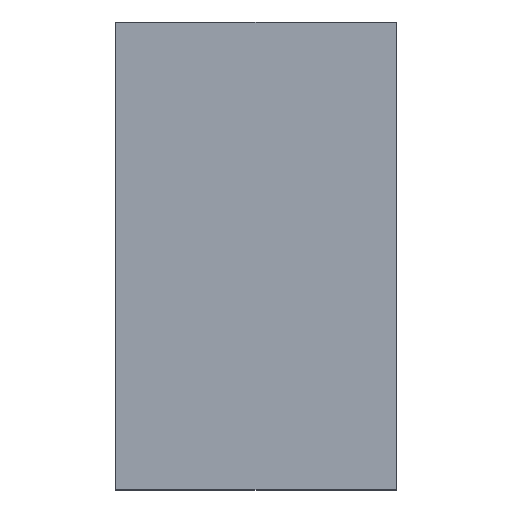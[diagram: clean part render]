
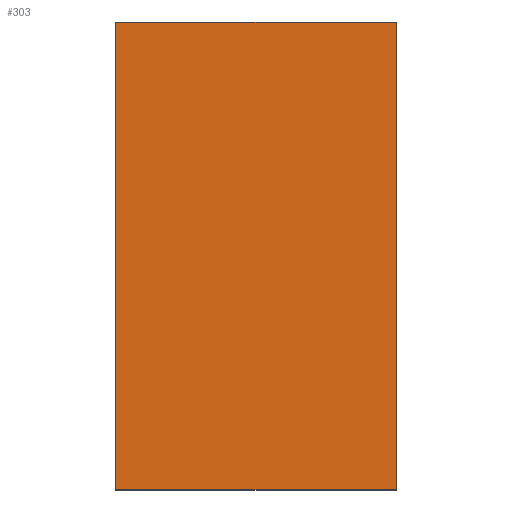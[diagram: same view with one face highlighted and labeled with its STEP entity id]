
A CAD part, top view. The second image highlights one B-rep face of the part: STEP entity #303.
In plain terms, the highlighted planar face has unit normal (0, 0, 1).
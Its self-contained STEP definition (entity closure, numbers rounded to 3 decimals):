
#174 = VERTEX_POINT('',#175);
#175 = CARTESIAN_POINT('',(38.,30.,7.));
#190 = VERTEX_POINT('',#191);
#191 = CARTESIAN_POINT('',(38.,80.,7.));
#197 = EDGE_CURVE('',#174,#190,#198,.T.);
#198 = LINE('',#199,#200);
#199 = CARTESIAN_POINT('',(38.,30.,7.));
#200 = VECTOR('',#201,1.);
#201 = DIRECTION('',(0.,1.,0.));
#214 = VERTEX_POINT('',#215);
#215 = CARTESIAN_POINT('',(68.,30.,7.));
#230 = VERTEX_POINT('',#231);
#231 = CARTESIAN_POINT('',(68.,80.,7.));
#237 = EDGE_CURVE('',#214,#230,#238,.T.);
#238 = LINE('',#239,#240);
#239 = CARTESIAN_POINT('',(68.,30.,7.));
#240 = VECTOR('',#241,1.);
#241 = DIRECTION('',(0.,1.,0.));
#258 = EDGE_CURVE('',#174,#214,#259,.T.);
#259 = LINE('',#260,#261);
#260 = CARTESIAN_POINT('',(38.,30.,7.));
#261 = VECTOR('',#262,1.);
#262 = DIRECTION('',(1.,0.,0.));
#280 = EDGE_CURVE('',#190,#230,#281,.T.);
#281 = LINE('',#282,#283);
#282 = CARTESIAN_POINT('',(38.,80.,7.));
#283 = VECTOR('',#284,1.);
#284 = DIRECTION('',(1.,0.,0.));
#303 = ADVANCED_FACE('',(#304),#310,.T.);
#304 = FACE_BOUND('',#305,.T.);
#305 = EDGE_LOOP('',(#306,#307,#308,#309));
#306 = ORIENTED_EDGE('',*,*,#197,.F.);
#307 = ORIENTED_EDGE('',*,*,#258,.T.);
#308 = ORIENTED_EDGE('',*,*,#237,.T.);
#309 = ORIENTED_EDGE('',*,*,#280,.F.);
#310 = PLANE('',#311);
#311 = AXIS2_PLACEMENT_3D('',#312,#313,#314);
#312 = CARTESIAN_POINT('',(38.,30.,7.));
#313 = DIRECTION('',(0.,0.,1.));
#314 = DIRECTION('',(1.,0.,0.));
